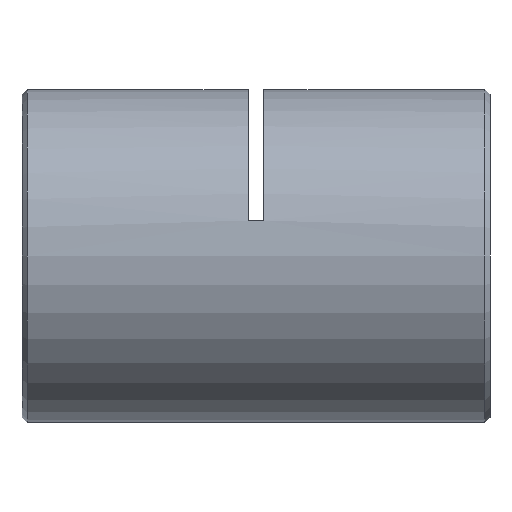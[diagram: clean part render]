
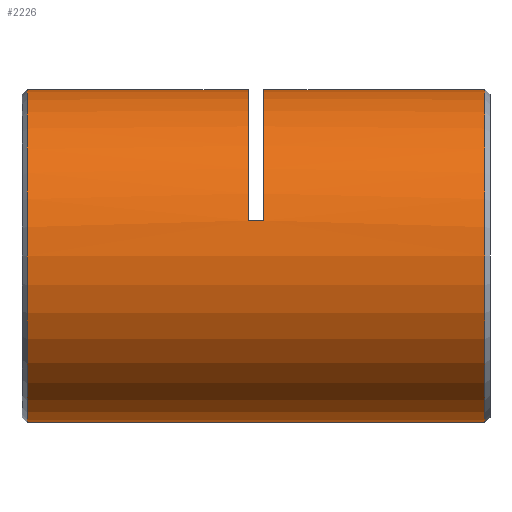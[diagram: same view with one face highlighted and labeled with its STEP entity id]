
A CAD part, left-side view. The second image highlights one B-rep face of the part: STEP entity #2226.
In plain terms, the highlighted cylindrical face has radius 16 mm (diameter 32 mm), a partial arc.
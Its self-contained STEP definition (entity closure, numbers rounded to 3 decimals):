
#11 = DIRECTION ( 'NONE',  ( 0., 0., 1. ) ) ;
#44 = CARTESIAN_POINT ( 'NONE',  ( 0., 0., 0. ) ) ;
#71 = DIRECTION ( 'NONE',  ( 0., 1., 0. ) ) ;
#94 = CIRCLE ( 'NONE', #2761, 16. ) ;
#96 = CARTESIAN_POINT ( 'NONE',  ( -15.632, 22.75, 3.413 ) ) ;
#176 = DIRECTION ( 'NONE',  ( 0., 0., 1. ) ) ;
#265 = VECTOR ( 'NONE', #2581, 1000. ) ;
#311 = DIRECTION ( 'NONE',  ( 0., 1., 0. ) ) ;
#461 = CIRCLE ( 'NONE', #641, 16. ) ;
#612 = DIRECTION ( 'NONE',  ( 0., 1., 0. ) ) ;
#641 = AXIS2_PLACEMENT_3D ( 'NONE', #2250, #5725, #4291 ) ;
#722 = CARTESIAN_POINT ( 'NONE',  ( 0., 0., -16. ) ) ;
#906 = ORIENTED_EDGE ( 'NONE', *, *, #5423, .T. ) ;
#981 = CARTESIAN_POINT ( 'NONE',  ( 0., 22., 0. ) ) ;
#1357 = VECTOR ( 'NONE', #4672, 1000. ) ;
#1397 = CARTESIAN_POINT ( 'NONE',  ( 0., 0., 16. ) ) ;
#1419 = VECTOR ( 'NONE', #5849, 1000. ) ;
#1720 = CARTESIAN_POINT ( 'NONE',  ( 0., 44.75, 16. ) ) ;
#1932 = EDGE_CURVE ( 'NONE', #2862, #5996, #2189, .T. ) ;
#2005 = EDGE_CURVE ( 'NONE', #2862, #5245, #3528, .T. ) ;
#2026 = DIRECTION ( 'NONE',  ( 0., 1., 0. ) ) ;
#2098 = CARTESIAN_POINT ( 'NONE',  ( 0., 0.75, 0. ) ) ;
#2128 = EDGE_CURVE ( 'NONE', #4184, #5085, #5784, .T. ) ;
#2158 = EDGE_LOOP ( 'NONE', ( #3851, #3307, #2538, #3511, #6228, #3778, #3031, #906 ) ) ;
#2189 = LINE ( 'NONE', #722, #265 ) ;
#2226 = ADVANCED_FACE ( 'NONE', ( #4433 ), #2989, .T. ) ;
#2250 = CARTESIAN_POINT ( 'NONE',  ( 0., 44.75, 0. ) ) ;
#2449 = CARTESIAN_POINT ( 'NONE',  ( 0., 0.75, 16. ) ) ;
#2538 = ORIENTED_EDGE ( 'NONE', *, *, #4185, .T. ) ;
#2581 = DIRECTION ( 'NONE',  ( 0., 1., 0. ) ) ;
#2761 = AXIS2_PLACEMENT_3D ( 'NONE', #981, #2026, #5503 ) ;
#2862 = VERTEX_POINT ( 'NONE', #4315 ) ;
#2882 = CARTESIAN_POINT ( 'NONE',  ( -15.632, 23.5, 3.413 ) ) ;
#2989 = CYLINDRICAL_SURFACE ( 'NONE', #3975, 16. ) ;
#3031 = ORIENTED_EDGE ( 'NONE', *, *, #4838, .T. ) ;
#3307 = ORIENTED_EDGE ( 'NONE', *, *, #2005, .T. ) ;
#3503 = VECTOR ( 'NONE', #612, 1000. ) ;
#3511 = ORIENTED_EDGE ( 'NONE', *, *, #4313, .F. ) ;
#3528 = CIRCLE ( 'NONE', #4348, 16. ) ;
#3669 = LINE ( 'NONE', #5194, #1357 ) ;
#3778 = ORIENTED_EDGE ( 'NONE', *, *, #2128, .T. ) ;
#3851 = ORIENTED_EDGE ( 'NONE', *, *, #1932, .F. ) ;
#3975 = AXIS2_PLACEMENT_3D ( 'NONE', #44, #71, #11 ) ;
#4046 = DIRECTION ( 'NONE',  ( 0., 1., 0. ) ) ;
#4184 = VERTEX_POINT ( 'NONE', #2882 ) ;
#4185 = EDGE_CURVE ( 'NONE', #5245, #5929, #5328, .T. ) ;
#4291 = DIRECTION ( 'NONE',  ( 0., 0., -1. ) ) ;
#4313 = EDGE_CURVE ( 'NONE', #5357, #5929, #94, .T. ) ;
#4315 = CARTESIAN_POINT ( 'NONE',  ( 0., 0.75, -16. ) ) ;
#4348 = AXIS2_PLACEMENT_3D ( 'NONE', #2098, #4046, #176 ) ;
#4401 = CARTESIAN_POINT ( 'NONE',  ( -15.632, 22., 3.413 ) ) ;
#4433 = FACE_OUTER_BOUND ( 'NONE', #2158, .T. ) ;
#4672 = DIRECTION ( 'NONE',  ( 0., 1., 0. ) ) ;
#4689 = CARTESIAN_POINT ( 'NONE',  ( 0., 23.5, 0. ) ) ;
#4838 = EDGE_CURVE ( 'NONE', #5085, #5159, #3669, .T. ) ;
#5041 = LINE ( 'NONE', #96, #3503 ) ;
#5085 = VERTEX_POINT ( 'NONE', #5986 ) ;
#5103 = CARTESIAN_POINT ( 'NONE',  ( 0., 44.75, -16. ) ) ;
#5159 = VERTEX_POINT ( 'NONE', #1720 ) ;
#5194 = CARTESIAN_POINT ( 'NONE',  ( 0., 0., 16. ) ) ;
#5245 = VERTEX_POINT ( 'NONE', #2449 ) ;
#5328 = LINE ( 'NONE', #1397, #1419 ) ;
#5357 = VERTEX_POINT ( 'NONE', #4401 ) ;
#5423 = EDGE_CURVE ( 'NONE', #5159, #5996, #461, .T. ) ;
#5477 = AXIS2_PLACEMENT_3D ( 'NONE', #4689, #311, #6259 ) ;
#5503 = DIRECTION ( 'NONE',  ( 0., 0., 1. ) ) ;
#5555 = CARTESIAN_POINT ( 'NONE',  ( 0., 22., 16. ) ) ;
#5725 = DIRECTION ( 'NONE',  ( 0., -1., 0. ) ) ;
#5784 = CIRCLE ( 'NONE', #5477, 16. ) ;
#5833 = EDGE_CURVE ( 'NONE', #5357, #4184, #5041, .T. ) ;
#5849 = DIRECTION ( 'NONE',  ( 0., 1., 0. ) ) ;
#5929 = VERTEX_POINT ( 'NONE', #5555 ) ;
#5986 = CARTESIAN_POINT ( 'NONE',  ( 0., 23.5, 16. ) ) ;
#5996 = VERTEX_POINT ( 'NONE', #5103 ) ;
#6228 = ORIENTED_EDGE ( 'NONE', *, *, #5833, .T. ) ;
#6259 = DIRECTION ( 'NONE',  ( 0., 0., 1. ) ) ;
